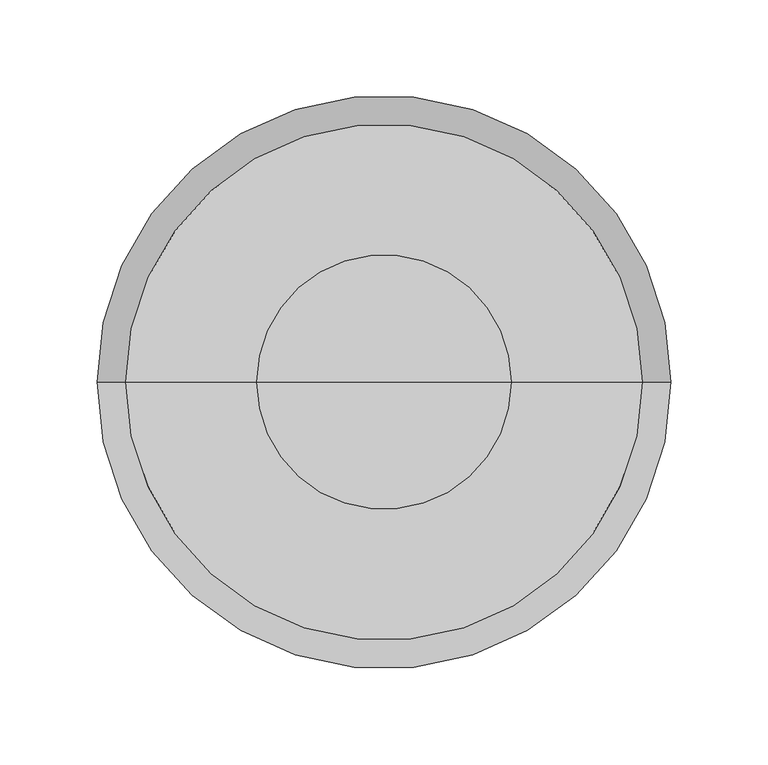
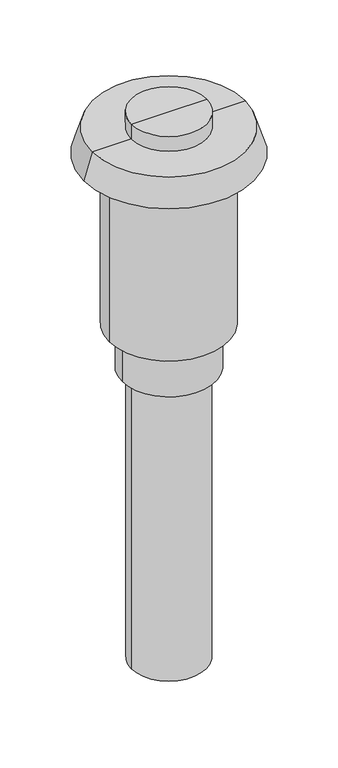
"""IFC4 building model written with IfcOpenShell, lengths in millimetres: air terminal geometry, NLRS_57_AIR_WPB_roof ventilation terminals_M&G : EPS Black, ø130 - L=1000mm."""

from ifc_helpers import new_model, si_unit, frame, origin, place, context, project, spatial, polyline, circle_curve, source, transform, mapped, element, save
from ifc_brep_helpers import plane_surface, cylinder_surface, revolved_surface, advanced_brep


def air_terminal_d9da2656(model_context):
    return source(origin(), model_context, "Body", "AdvancedBrep", [
        advanced_brep(
        [(65.5, 0.0, 467.0), (-65.5, 0.0, 467.0), (0.0, 0.0, 467.0), (65.5, 0.0, 440.0), (-65.5, 0.0, 440.0), (0.0, 0.0, 440.0)],
        [
            (0, 1, circle_curve(frame((0.0, 0.0, 467.0), z_axis=(0.0, 0.0, 1.0), x_axis=(-1.0, 0.0, 0.0)), 65.5)),
            (1, 2),
            (2, 0),
            (1, 0, circle_curve(frame((0.0, 0.0, 467.0), z_axis=(0.0, 0.0, 1.0), x_axis=(-1.0, 0.0, 0.0)), 65.5)),
            (3, 4, circle_curve(frame((0.0, 0.0, 440.0), z_axis=(0.0, 0.0, 1.0), x_axis=(-1.0, 0.0, 0.0)), 65.5)),
            (4, 1),
            (0, 3),
            (4, 3, circle_curve(frame((0.0, 0.0, 440.0), z_axis=(0.0, 0.0, 1.0), x_axis=(-1.0, 0.0, 0.0)), 65.5)),
            (5, 4),
            (3, 5),
        ],
        [
            plane_surface(frame((0.0, 0.0, 467.0), z_axis=(0.0, 0.0, 1.0), x_axis=(-1.0, 0.0, 0.0))),
            cylinder_surface(frame((0.0, 0.0, 2170.3150031), z_axis=(0.0, 0.0, -1.0), x_axis=(-1.0, 0.0, 0.0)), 65.5),
            plane_surface(frame((0.0, 0.0, 440.0), z_axis=(0.0, 0.0, -1.0), x_axis=(-1.0, 0.0, 0.0))),
        ],
        [
            (0, [[1, 2, 3]]),
            (0, [[4, -3, -2]]),
            (1, [[5, 6, -1, 7]]),
            (1, [[8, -7, -4, -6]]),
            (2, [[9, -5, 10]]),
            (2, [[-10, -8, -9]]),
        ],
    ),
        advanced_brep(
        [(81.0, 0.0, 392.0), (-81.0, 0.0, 392.0), (0.0, 0.0, 392.0), (81.0, 0.0, 0.0), (-81.0, 0.0, 0.0), (0.0, 0.0, 0.0)],
        [
            (0, 1, circle_curve(frame((0.0, 0.0, 392.0), z_axis=(0.0, 0.0, 1.0), x_axis=(-1.0, 0.0, 0.0)), 81.0)),
            (1, 2),
            (2, 0),
            (1, 0, circle_curve(frame((0.0, 0.0, 392.0), z_axis=(0.0, 0.0, 1.0), x_axis=(-1.0, 0.0, 0.0)), 81.0)),
            (3, 4, circle_curve(frame((0.0, 0.0, 0.0), z_axis=(0.0, 0.0, 1.0), x_axis=(-1.0, 0.0, 0.0)), 81.0)),
            (4, 1),
            (0, 3),
            (4, 3, circle_curve(frame((0.0, 0.0, 0.0), z_axis=(0.0, 0.0, 1.0), x_axis=(-1.0, 0.0, 0.0)), 81.0)),
            (5, 4),
            (3, 5),
        ],
        [
            plane_surface(frame((0.0, 0.0, 392.0), z_axis=(0.0, 0.0, 1.0), x_axis=(-1.0, 0.0, 0.0))),
            cylinder_surface(frame((0.0, 0.0, 2214.3150031), z_axis=(0.0, 0.0, -1.0), x_axis=(-1.0, 0.0, 0.0)), 81.0),
            plane_surface(frame((0.0, 0.0, 0.0), z_axis=(0.0, 0.0, -1.0), x_axis=(-1.0, 0.0, 0.0))),
        ],
        [
            (0, [[1, 2, 3]]),
            (0, [[4, -3, -2]]),
            (1, [[5, 6, -1, 7]]),
            (1, [[8, -7, -4, -6]]),
            (2, [[9, -5, 10]]),
            (2, [[-10, -8, -9]]),
        ],
    ),
        advanced_brep(
        [(103.2, 0.0, 392.0), (-103.2, 0.0, 392.0), (0.0, 0.0, 392.0), (103.2, 0.0, 81.0), (-103.2, 0.0, 81.0), (0.0, 0.0, 81.0)],
        [
            (0, 1, circle_curve(frame((0.0, 0.0, 392.0), z_axis=(0.0, 0.0, 1.0), x_axis=(-1.0, 0.0, 0.0)), 103.2)),
            (1, 2),
            (2, 0),
            (1, 0, circle_curve(frame((0.0, 0.0, 392.0), z_axis=(0.0, 0.0, 1.0), x_axis=(-1.0, 0.0, 0.0)), 103.2)),
            (3, 4, circle_curve(frame((0.0, 0.0, 81.0), z_axis=(0.0, 0.0, 1.0), x_axis=(-1.0, 0.0, 0.0)), 103.2)),
            (4, 1),
            (0, 3),
            (4, 3, circle_curve(frame((0.0, 0.0, 81.0), z_axis=(0.0, 0.0, 1.0), x_axis=(-1.0, 0.0, 0.0)), 103.2)),
            (5, 4),
            (3, 5),
        ],
        [
            plane_surface(frame((0.0, 0.0, 392.0), z_axis=(0.0, 0.0, 1.0), x_axis=(-1.0, 0.0, 0.0))),
            cylinder_surface(frame((0.0, 0.0, 2214.3150031), z_axis=(0.0, 0.0, -1.0), x_axis=(-1.0, 0.0, 0.0)), 103.2),
            plane_surface(frame((0.0, 0.0, 81.0), z_axis=(0.0, 0.0, -1.0), x_axis=(-1.0, 0.0, 0.0))),
        ],
        [
            (0, [[1, 2, 3]]),
            (0, [[4, -3, -2]]),
            (1, [[5, 6, -1, 7]]),
            (1, [[8, -7, -4, -6]]),
            (2, [[9, -5, 10]]),
            (2, [[-10, -8, -9]]),
        ],
    ),
        advanced_brep(
        [(133.0, 0.0, 440.0), (-133.0, 0.0, 440.0), (0.0, 0.0, 440.0), (147.75, 0.0, 392.0), (-147.75, 0.0, 392.0), (0.0, 0.0, 392.0)],
        [
            (0, 1, circle_curve(frame((0.0, 0.0, 440.0), z_axis=(0.0, 0.0, 1.0), x_axis=(-1.0, 0.0, 0.0)), 133.0)),
            (1, 2),
            (2, 0),
            (1, 0, circle_curve(frame((0.0, 0.0, 440.0), z_axis=(0.0, 0.0, 1.0), x_axis=(-1.0, 0.0, 0.0)), 133.0)),
            (3, 4, circle_curve(frame((0.0, 0.0, 392.0), z_axis=(0.0, 0.0, 1.0), x_axis=(-1.0, 0.0, 0.0)), 147.75)),
            (4, 1),
            (0, 3),
            (4, 3, circle_curve(frame((0.0, 0.0, 392.0), z_axis=(0.0, 0.0, 1.0), x_axis=(-1.0, 0.0, 0.0)), 147.75)),
            (5, 4),
            (3, 5),
        ],
        [
            plane_surface(frame((0.0, 0.0, 440.0), z_axis=(0.0, 0.0, 1.0), x_axis=(-1.0, 0.0, 0.0))),
            revolved_surface(polyline([(-133.0, 0.0, 440.0), (-147.75, 0.0, 392.0)]), (0.0, 0.0, 2160.3150031), (0.0, 0.0, -1.0)),
            plane_surface(frame((0.0, 0.0, 392.0), z_axis=(0.0, 0.0, -1.0), x_axis=(-1.0, 0.0, 0.0))),
        ],
        [
            (0, [[1, 2, 3]]),
            (0, [[4, -3, -2]]),
            (1, [[5, 6, -1, 7]]),
            (1, [[8, -7, -4, -6]]),
            (2, [[9, -5, 10]]),
            (2, [[-10, -8, -9]]),
        ],
    ),
        advanced_brep(
        [(65.0, 0.0, -533.0), (-65.0, 0.0, -533.0), (-65.0, 0.0, 0.0), (65.0, 0.0, 0.0), (0.0, 0.0, -533.0), (0.0, 0.0, 0.0)],
        [
            (0, 1, circle_curve(frame((0.0, 0.0, -533.0), z_axis=(0.0, 0.0, 1.0), x_axis=(-1.0, 0.0, 0.0)), 65.0)),
            (1, 2),
            (2, 3, circle_curve(frame((0.0, 0.0, 0.0), z_axis=(0.0, 0.0, -1.0), x_axis=(-1.0, 0.0, 0.0)), 65.0)),
            (3, 0),
            (1, 0, circle_curve(frame((0.0, 0.0, -533.0), z_axis=(0.0, 0.0, 1.0), x_axis=(-1.0, 0.0, 0.0)), 65.0)),
            (3, 2, circle_curve(frame((0.0, 0.0, 0.0), z_axis=(0.0, 0.0, -1.0), x_axis=(-1.0, 0.0, 0.0)), 65.0)),
            (4, 1),
            (0, 4),
            (2, 5),
            (5, 3),
        ],
        [
            cylinder_surface(frame((0.0, 0.0, 2160.3150031), z_axis=(0.0, 0.0, -1.0), x_axis=(-1.0, 0.0, 0.0)), 65.0),
            plane_surface(frame((0.0, 0.0, -533.0), z_axis=(0.0, 0.0, -1.0), x_axis=(-1.0, 0.0, 0.0))),
            plane_surface(frame((0.0, 0.0, 0.0), z_axis=(0.0, 0.0, 1.0), x_axis=(-1.0, 0.0, 0.0))),
        ],
        [
            (0, [[1, 2, 3, 4]]),
            (0, [[5, -4, 6, -2]]),
            (1, [[7, -1, 8]]),
            (1, [[-8, -5, -7]]),
            (2, [[-3, 9, 10]]),
            (2, [[-6, -10, -9]]),
        ],
    ),
    ])


if __name__ == "__main__":
    model = new_model("IFC4")
    model_context = context("Model", 3, world=origin())
    ifc_project = project(units=[si_unit("LENGTHUNIT", "METRE", prefix="MILLI")], contexts=[model_context])
    site = spatial("IfcSite", under=ifc_project)
    building = spatial("IfcBuilding", under=site)
    placement = place(None, origin())
    air_terminal_shape = air_terminal_d9da2656(model_context)
    element("IfcAirTerminal", 1, ObjectType="NLRS_57_AIR_WPB_roof ventilation terminals_M&G : EPS Black, ø130 - L=1000mm", at=placement, inside=building, context=model_context, shape_type="MappedRepresentation", body=[
        mapped(air_terminal_shape, transform((0.0, 0.0, 0.0), x_axis=(1.0, 0.0, 0.0), y_axis=(0.0, 1.0, 0.0), z_axis=(0.0, 0.0, 1.0))),
    ])
    save(model, "model.ifc")
